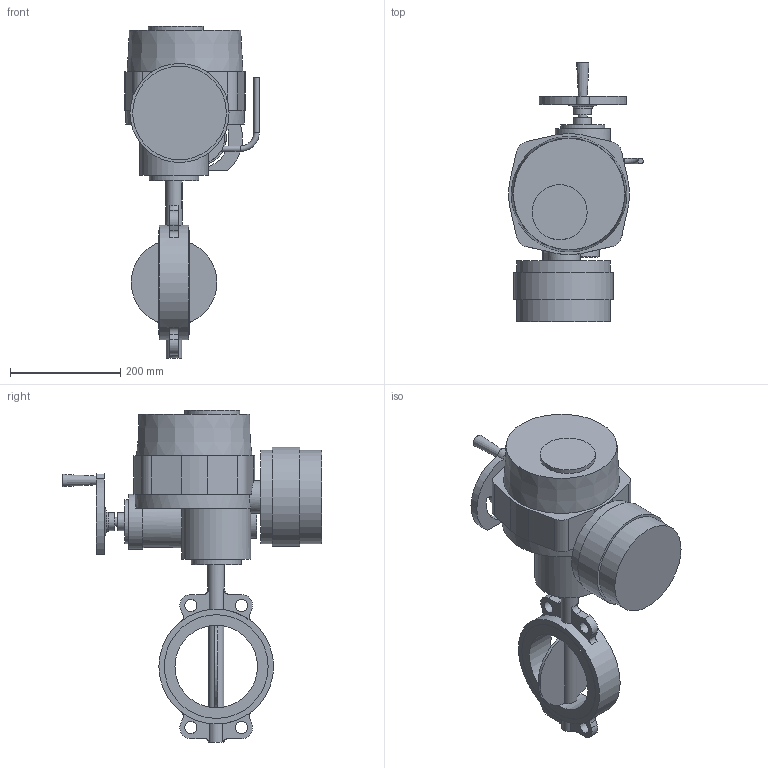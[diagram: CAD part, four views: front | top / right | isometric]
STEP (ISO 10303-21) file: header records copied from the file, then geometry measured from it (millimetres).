
FILE_DESCRIPTION(('STEP AP203'), '1');
FILE_NAME('青蜮铕 017W.Y_DN150_QT.A 015', '', ('UNSPECIFIED'), ('UNSPECIFIED'), 'ASCON STEP Converter 1.6', 'ASCON Math Kernel', '');
FILE_SCHEMA(('CONFIG_CONTROL_DESIGN'));
Length unit declared in the file: millimetre
Bounding box: 244.71 x 472 x 603 mm (x, y, z)
Volume: 12546149.8 mm3; surface area: 598209.7 mm2
Topology: 1 solids, 1 shells, 182 faces, 425 edges, 280 vertices
Faces by surface type: plane 94, cylinder 80, torus 5, cone 3
Full cylindrical faces by diameter (mm): 6.7 x8, 10 x6, 16 x1, 22 x4, 30 x1, 32 x2, 35 x1, 60 x1, 80 x1, 90 x1, 100 x2, 125 x1, 150 x1, 170 x2, 180 x1, 188.4 x2, 208.4 x1
Entity records: 8370 total; most frequent: CARTESIAN_POINT 2751, DIRECTION 888, ORIENTED_EDGE 764, EDGE_CURVE 382, AXIS2_PLACEMENT_3D 359, VERTEX_POINT 278, EDGE_LOOP 274, FACE_BOUND 198
